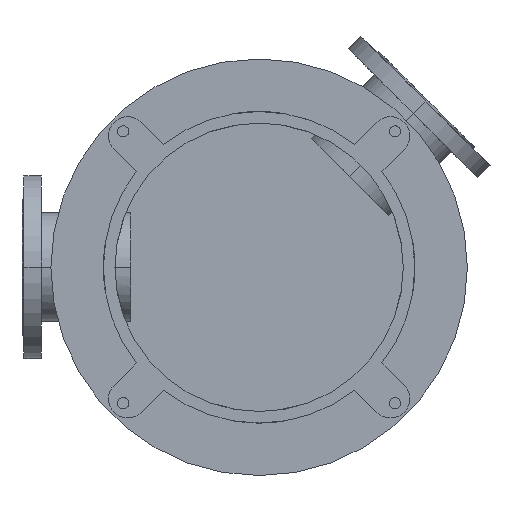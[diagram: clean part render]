
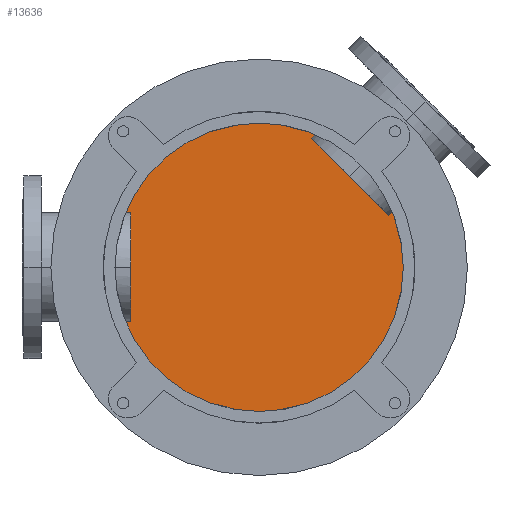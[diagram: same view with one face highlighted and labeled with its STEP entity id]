
A CAD part, front view. The second image highlights one B-rep face of the part: STEP entity #13636.
In plain terms, the highlighted planar face has unit normal (0, -1, 0).
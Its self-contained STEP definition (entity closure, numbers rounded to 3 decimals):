
#3273=CARTESIAN_POINT('',(0.,836.,0.));
#3274=DIRECTION('',(0.,-1.,0.));
#3275=DIRECTION('',(0.,0.,1.));
#3276=AXIS2_PLACEMENT_3D('',#3273,#3274,#3275);
#3401=CARTESIAN_POINT('',(0.,836.,0.));
#3402=DIRECTION('',(0.,-1.,0.));
#3403=DIRECTION('',(0.,0.,-1.));
#3404=AXIS2_PLACEMENT_3D('',#3401,#3402,#3403);
#8572=CARTESIAN_POINT('',(0.,836.,240.));
#8573=CARTESIAN_POINT('',(0.,836.,-240.));
#8574=VERTEX_POINT('',#8572);
#8575=VERTEX_POINT('',#8573);
#13626=CARTESIAN_POINT('',(0.,836.,0.));
#13627=DIRECTION('',(0.,1.,0.));
#13628=DIRECTION('',(0.,0.,-1.));
#13629=AXIS2_PLACEMENT_3D('',#13626,#13627,#13628);
#13630=PLANE('',#13629);
#13631=ORIENTED_EDGE('',*,*,#13610,.F.);
#13633=ORIENTED_EDGE('',*,*,#13632,.F.);
#13634=EDGE_LOOP('',(#13631,#13633));
#13635=FACE_OUTER_BOUND('',#13634,.F.);
#13636=ADVANCED_FACE('',(#13635),#13630,.F.);
#3277=CIRCLE('',#3276,240.);
#3405=CIRCLE('',#3404,240.);
#13610=EDGE_CURVE('',#8574,#8575,#3277,.T.);
#13632=EDGE_CURVE('',#8575,#8574,#3405,.T.);
